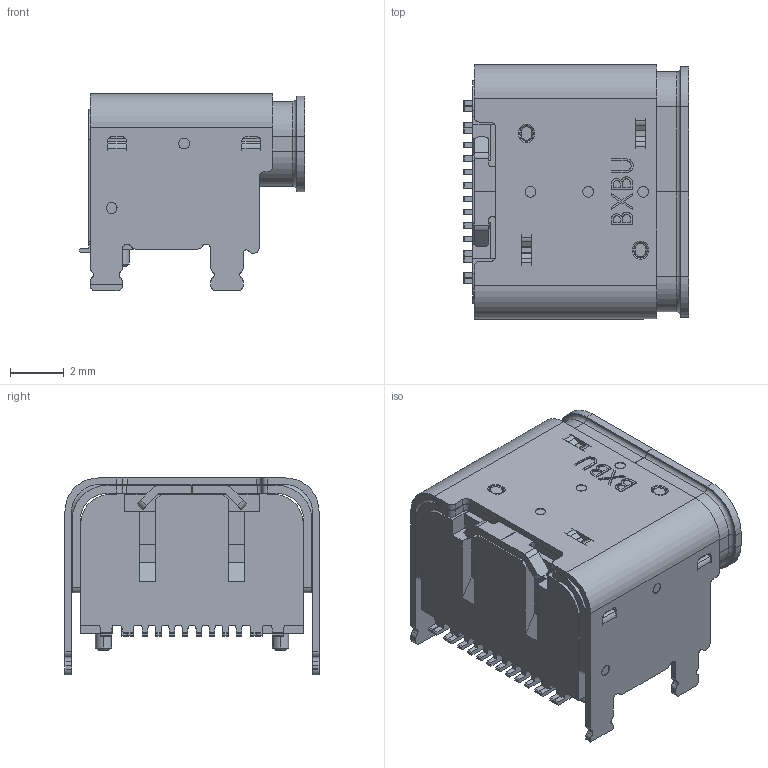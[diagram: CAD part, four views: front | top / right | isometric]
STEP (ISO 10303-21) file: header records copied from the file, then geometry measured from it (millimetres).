
FILE_DESCRIPTION((' '),'2;1');
FILE_NAME( 'U5100-16PNQ2.5G8.0L.stp', '2026-05-14T09:57:34', (' '), ('--- ---'), ' V2026.1 Dec 31 2025', ' 2026 (c)', ' ');
FILE_SCHEMA(('AP242_MANAGED_MODEL_BASED_3D_ENGINEERING_MIM_LF { 1 0 10303 442 1 1 4 }'));
Length unit declared in the file: millimetre
Products named in the file (1): U5100-16PNQ2.5G8.0L
Bounding box: 8.41 x 9.47 x 7.37 mm (x, y, z)
Volume: 202.3 mm3; surface area: 869.3 mm2
Topology: 1 solids, 1 shells, 1074 faces, 3189 edges, 2102 vertices
Faces by surface type: plane 675, cylinder 334, torus 32, bspline 25, cone 8
Entity records: 37358 total; most frequent: CARTESIAN_POINT 8060, ORIENTED_EDGE 6378, DIRECTION 5919, EDGE_CURVE 3189, VECTOR 2365, LINE 2365, VERTEX_POINT 2102, AXIS2_PLACEMENT_3D 1777
